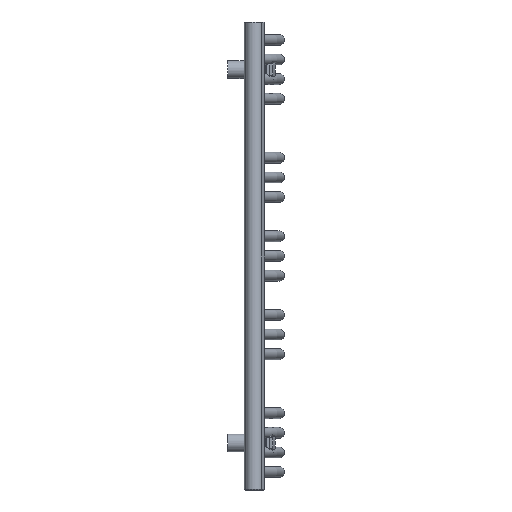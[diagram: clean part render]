
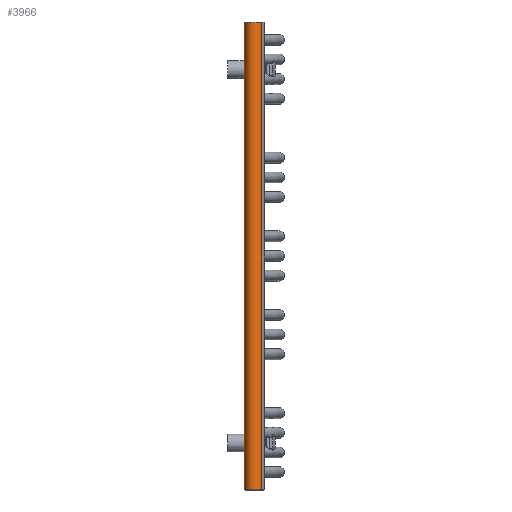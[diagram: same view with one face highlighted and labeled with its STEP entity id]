
A CAD part, left-side view. The second image highlights one B-rep face of the part: STEP entity #3966.
In plain terms, the highlighted cylindrical face has radius 15 mm (diameter 30 mm), a partial arc.
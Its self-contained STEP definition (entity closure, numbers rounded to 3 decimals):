
#3413=CARTESIAN_POINT('',(-229.902,57.889,1.5));
#3414=VERTEX_POINT('',#3413);
#3528=CARTESIAN_POINT('',(-240.098,29.675,1.5));
#3529=VERTEX_POINT('',#3528);
#3537=CARTESIAN_POINT('',(-235.0,43.782,1.5));
#3538=DIRECTION('',(0.,0.,-1.0));
#3539=DIRECTION('',(-0.34,-0.94,0.));
#3540=AXIS2_PLACEMENT_3D('',#3537,#3538,#3539);
#3541=CIRCLE('',#3540,15.);
#3542=EDGE_CURVE('',#3529,#3414,#3541,.T.);
#3676=CARTESIAN_POINT('',(-240.098,29.675,784.5));
#3677=VERTEX_POINT('',#3676);
#3771=CARTESIAN_POINT('',(-229.902,57.889,784.5));
#3772=VERTEX_POINT('',#3771);
#3780=CARTESIAN_POINT('',(-235.,43.782,784.5));
#3781=DIRECTION('',(0.,0.,-1.0));
#3782=DIRECTION('',(-0.34,-0.94,0.));
#3783=AXIS2_PLACEMENT_3D('',#3780,#3781,#3782);
#3784=CIRCLE('',#3783,15.);
#3785=EDGE_CURVE('',#3677,#3772,#3784,.T.);
#3939=CARTESIAN_POINT('',(-240.098,29.675,1.5));
#3940=DIRECTION('',(0.0,0.0,1.0));
#3941=VECTOR('',#3940,783.);
#3942=LINE('',#3939,#3941);
#3943=EDGE_CURVE('',#3529,#3677,#3942,.T.);
#3950=CARTESIAN_POINT('',(-235.0,43.782,1.5));
#3951=DIRECTION('',(0.,0.,1.0));
#3952=DIRECTION('',(-0.34,-0.94,0.));
#3953=AXIS2_PLACEMENT_3D('',#3950,#3951,#3952);
#3954=CYLINDRICAL_SURFACE('',#3953,15.);
#3955=ORIENTED_EDGE('',*,*,#3785,.T.);
#3956=CARTESIAN_POINT('',(-229.902,57.889,1.5));
#3957=DIRECTION('',(0.0,0.0,1.0));
#3958=VECTOR('',#3957,783.);
#3959=LINE('',#3956,#3958);
#3960=EDGE_CURVE('',#3414,#3772,#3959,.T.);
#3961=ORIENTED_EDGE('',*,*,#3960,.F.);
#3962=ORIENTED_EDGE('',*,*,#3542,.F.);
#3963=ORIENTED_EDGE('',*,*,#3943,.T.);
#3964=EDGE_LOOP('',(#3955,#3961,#3962,#3963));
#3965=FACE_OUTER_BOUND('',#3964,.T.);
#3966=ADVANCED_FACE('',(#3965),#3954,.T.);
